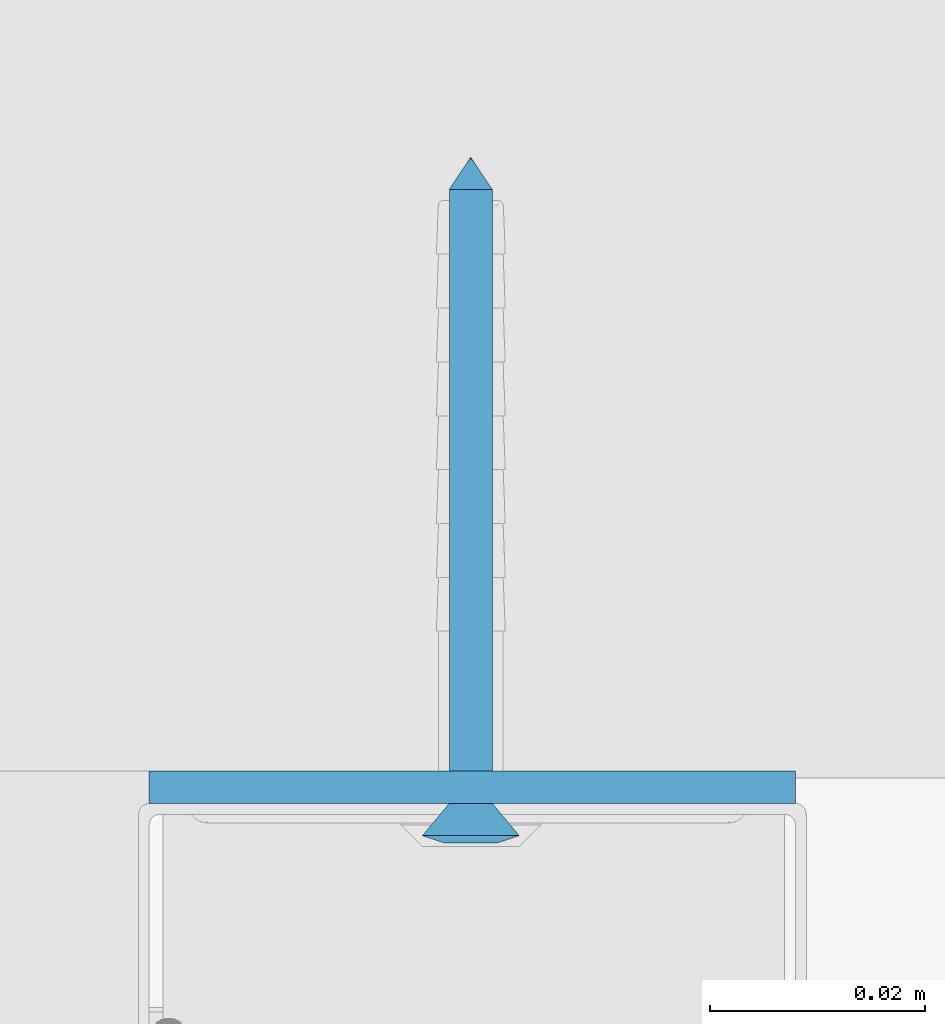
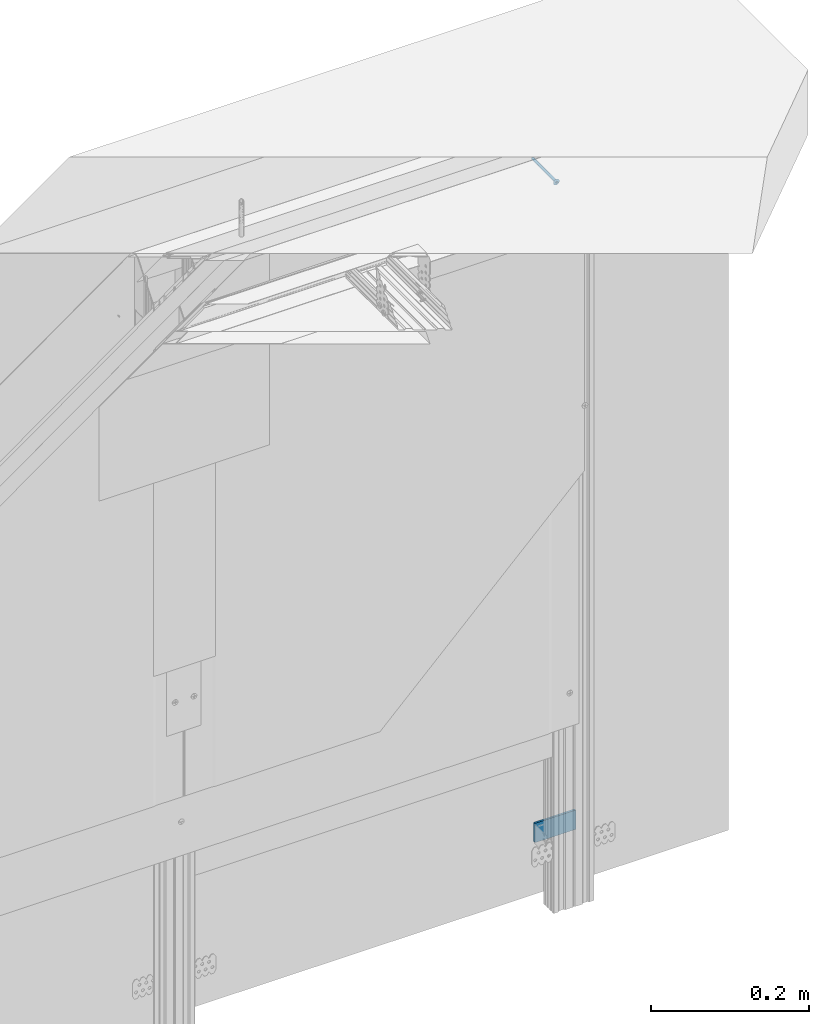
# One storey, part 60 of 62: 2 walls.
"""IFC2X3 building model written with IfcOpenShell, lengths in millimetres."""

from ifc_helpers import new_model, entity, si_unit, converted_unit, direction, frame, origin, origin_with_axes, place, context, project, spatial, faceted_brep, element, save


model = new_model("IFC2X3")

# Units and contexts
model_context = context("Model", 3, precision=1e-05, world=origin(), true_north=direction((0.0, 1.0, 0.0)))
ifc_project = project(units=[si_unit("LENGTHUNIT", "METRE", prefix="MILLI"), si_unit("AREAUNIT", "SQUARE_METRE"), si_unit("VOLUMEUNIT", "CUBIC_METRE"), converted_unit("PLANEANGLEUNIT", "DEGREE", entity("IfcPlaneAngleMeasure", 0.01745), si_unit("PLANEANGLEUNIT", "RADIAN"), dimensions=[0, 0, 0, 0, 0, 0, 0]), si_unit("SOLIDANGLEUNIT", "STERADIAN"), si_unit("MASSUNIT", "GRAM"), si_unit("TIMEUNIT", "SECOND"), si_unit("THERMODYNAMICTEMPERATUREUNIT", "DEGREE_CELSIUS"), si_unit("LUMINOUSINTENSITYUNIT", "LUMEN")], contexts=[model_context])

# Site, building, storey
site_placement = place(None, origin_with_axes())
site = spatial("IfcSite", under=ifc_project, at=site_placement, Name="Default Site", CompositionType="ELEMENT")
building_placement = place(site_placement, origin_with_axes())
building = spatial("IfcBuilding", under=site, at=building_placement, Name="Default Building", CompositionType="ELEMENT")
storey_placement = place(building_placement, origin_with_axes())
storey = spatial("IfcBuildingStorey", under=building, at=storey_placement, Name="Default Building Storey", CompositionType="ELEMENT", Elevation=0.0)

# Walls
wall_1_placement = place(storey_placement, frame((3458.037086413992, 2019.778611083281, 272.8482394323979), z_axis=(0.0, 0.0, -1.0), x_axis=(1.0, 0.0, 0.0)))
element("IfcWall", 1, at=wall_1_placement, inside=storey, Name="Taśma uszczelniająca piankowa RIGIPS szer.30mm", context=model_context, shape_type="Brep", body=[
    faceted_brep([(59.99999999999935, 0.0, 4.511946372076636e-12), (0.0, 0.0, 0.0), (1.082867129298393e-12, 2.237925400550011e-11, -30.00000000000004), (60.00000000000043, 2.237925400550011e-11, -29.99999999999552), (0.0, -3.00000000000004, 0.0), (1.082867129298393e-12, -2.999999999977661, -30.00000000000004), (60.00000000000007, -3.00000000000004, 0.0), (60.00000000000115, -2.999999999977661, -30.00000000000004)], [[[0, 1, 2, 3]], [[1, 4, 5, 2]], [[4, 6, 7, 5]], [[6, 0, 3, 7]], [[7, 3, 2, 5]], [[0, 6, 4, 1]]]),
])
wall_2_placement = place(storey_placement, frame((6941.176283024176, 2016.328611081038, -145.8634027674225), z_axis=(-6.858158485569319e-13, -1.0, -7.642380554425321e-14), x_axis=(-1.647602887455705e-11, 7.642380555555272e-14, -1.0)))
element("IfcWall", 2, at=wall_2_placement, inside=storey, Name="Kołek rozporowy min. fi 6", context=model_context, shape_type="Brep", body=[
    faceted_brep([(-1438.31414949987, -3453.283223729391, -0.4642567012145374), (-1435.814149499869, -3453.283223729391, -3.464256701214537), (-1435.78952618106, -3452.97035479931, -3.464256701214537), (-1438.258747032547, -3452.57926863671, -0.4642567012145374), (-1435.71626253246, -3452.665189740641, -3.464256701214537), (-1438.093903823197, -3451.892647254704, -0.4642567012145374), (-1435.596162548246, -3452.375242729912, -3.464256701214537), (-1437.823678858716, -3451.240266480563, -0.4642567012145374), (-1435.432183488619, -3452.107653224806, -3.464256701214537), (-1437.454725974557, -3450.638190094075, -0.4642567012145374), (-1435.228363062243, -3451.869010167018, -3.464256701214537), (-1436.996130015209, -3450.101243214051, -0.4642567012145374), (-1434.989720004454, -3451.665189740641, -3.464256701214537), (-1436.459183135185, -3449.642647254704, -0.4642567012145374), (-1434.722130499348, -3451.501210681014, -3.464256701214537), (-1435.857106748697, -3449.273694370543, -0.4642567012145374), (-1434.432183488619, -3451.381110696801, -3.464256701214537), (-1435.204725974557, -3449.003469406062, -0.4642567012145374), (-1434.12701842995, -3451.307847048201, -3.464256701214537), (-1434.51810459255, -3448.838626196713, -0.4642567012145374), (-1433.814149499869, -3451.283223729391, -3.464256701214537), (-1433.814149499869, -3448.783223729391, -0.4642567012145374), (-1433.501280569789, -3451.307847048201, -3.464256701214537), (-1433.110194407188, -3448.838626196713, -0.4642567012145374), (-1433.19611551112, -3451.381110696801, -3.464256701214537), (-1432.423573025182, -3449.003469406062, -0.4642567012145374), (-1432.906168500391, -3451.501210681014, -3.464256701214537), (-1431.771192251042, -3449.273694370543, -0.4642567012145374), (-1432.638578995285, -3451.665189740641, -3.464256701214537), (-1431.169115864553, -3449.642647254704, -0.4642567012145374), (-1432.399935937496, -3451.869010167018, -3.464256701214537), (-1430.63216898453, -3450.101243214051, -0.4642567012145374), (-1432.196115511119, -3452.107653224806, -3.464256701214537), (-1430.173573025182, -3450.638190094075, -0.4642567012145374), (-1432.032136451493, -3452.375242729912, -3.464256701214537), (-1429.804620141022, -3451.240266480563, -0.4642567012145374), (-1431.912036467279, -3452.665189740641, -3.464256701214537), (-1429.534395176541, -3451.892647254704, -0.4642567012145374), (-1431.838772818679, -3453.596092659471, -3.464256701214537), (-1429.369551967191, -3453.987178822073, -0.4642567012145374), (-1429.314149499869, -3453.283223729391, -0.4642567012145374), (-1431.81414949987, -3453.283223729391, -3.464256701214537), (-1429.369551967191, -3452.57926863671, -0.4642567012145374), (-1431.838772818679, -3452.97035479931, -3.464256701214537), (-1431.912036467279, -3453.901257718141, -3.464256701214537), (-1429.534395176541, -3454.673800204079, -0.4642567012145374), (-1432.032136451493, -3454.19120472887, -3.464256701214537), (-1429.804620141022, -3455.326180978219, -0.4642567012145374), (-1432.196115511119, -3454.458794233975, -3.464256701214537), (-1430.173573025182, -3455.928257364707, -0.4642567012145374), (-1432.399935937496, -3454.697437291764, -3.464256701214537), (-1430.63216898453, -3456.465204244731, -0.4642567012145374), (-1432.638578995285, -3454.901257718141, -3.464256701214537), (-1431.169115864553, -3456.923800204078, -0.4642567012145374), (-1432.906168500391, -3455.065236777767, -3.464256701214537), (-1431.771192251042, -3457.292753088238, -0.4642567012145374), (-1433.19611551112, -3455.185336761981, -3.464256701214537), (-1432.423573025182, -3457.562978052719, -0.4642567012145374), (-1433.501280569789, -3455.258600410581, -3.464256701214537), (-1433.110194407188, -3457.727821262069, -0.4642567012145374), (-1433.814149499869, -3455.283223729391, -3.464256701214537), (-1433.814149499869, -3457.783223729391, -0.4642567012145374), (-1434.34306778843, -3457.752031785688, -0.4642567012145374), (-1434.12701842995, -3455.258600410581, -3.464256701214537), (-1434.432183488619, -3455.185336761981, -3.464256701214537), (-1434.864653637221, -3457.658888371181, -0.4642567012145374), (-1435.371676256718, -3457.505084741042, -0.4642567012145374), (-1434.722130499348, -3455.065236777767, -3.464256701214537), (-1435.857106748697, -3457.292753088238, -0.4642567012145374), (-1434.989720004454, -3454.901257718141, -3.464256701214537), (-1435.228363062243, -3454.697437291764, -3.464256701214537), (-1436.314215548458, -3457.024836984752, -0.4642567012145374), (-1436.736665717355, -3456.705050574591, -0.4642567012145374), (-1437.11860079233, -3456.337827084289, -0.4642567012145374), (-1437.454725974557, -3455.928257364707, -0.4642567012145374), (-1435.432183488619, -3454.458794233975, -3.464256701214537), (-1435.596162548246, -3454.19120472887, -3.464256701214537), (-1437.823678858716, -3455.326180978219, -0.4642567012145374), (-1435.71626253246, -3453.901257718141, -3.464256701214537), (-1438.093903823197, -3454.673800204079, -0.4642567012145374), (-1435.78952618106, -3453.596092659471, -3.464256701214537), (-1438.258747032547, -3453.987178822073, -0.4642567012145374), (-1434.205235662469, -3455.752444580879, 0.2007375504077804), (-1433.814149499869, -3455.78322372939, 0.2007375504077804), (-1434.586691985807, -3455.660865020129, 0.2007375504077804), (-1434.949125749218, -3455.510740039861, 0.2007375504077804), (-1435.283612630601, -3455.305766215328, 0.2007375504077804), (-1435.581916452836, -3455.050990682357, 0.2007375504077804), (-1435.836691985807, -3454.752686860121, 0.2007375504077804), (-1436.04166581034, -3454.41819997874, 0.2007375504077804), (-1436.191790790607, -3454.055766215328, 0.2007375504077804), (-1436.283370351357, -3453.674309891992, 0.2007375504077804), (-1436.314149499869, -3453.283223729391, 0.2007375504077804), (-1436.283370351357, -3452.892137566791, 0.2007375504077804), (-1436.191790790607, -3452.510681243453, 0.2007375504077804), (-1436.04166581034, -3452.148247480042, 0.2007375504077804), (-1435.836691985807, -3451.81376059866, 0.200737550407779), (-1435.581916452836, -3451.515456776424, 0.2007375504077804), (-1435.283612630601, -3451.260681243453, 0.2007375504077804), (-1434.949125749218, -3451.05570741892, 0.2007375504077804), (-1434.586691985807, -3450.905582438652, 0.2007375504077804), (-1433.423063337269, -3450.814002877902, 0.2007375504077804), (-1433.814149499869, -3450.783223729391, 0.2007375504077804), (-1434.205235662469, -3450.814002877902, 0.2007375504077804), (-1433.041607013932, -3450.905582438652, 0.2007375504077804), (-1432.67917325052, -3451.05570741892, 0.2007375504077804), (-1432.344686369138, -3451.260681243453, 0.2007375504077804), (-1432.046382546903, -3451.515456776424, 0.2007375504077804), (-1431.791607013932, -3451.81376059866, 0.2007375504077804), (-1431.586633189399, -3452.148247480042, 0.2007375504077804), (-1431.436508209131, -3452.510681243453, 0.2007375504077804), (-1431.344928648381, -3452.892137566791, 0.2007375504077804), (-1431.314149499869, -3453.283223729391, 0.2007375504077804), (-1431.344928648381, -3453.674309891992, 0.2007375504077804), (-1431.436508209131, -3454.055766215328, 0.2007375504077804), (-1431.586633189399, -3454.41819997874, 0.2007375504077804), (-1431.791607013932, -3454.752686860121, 0.2007375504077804), (-1432.046382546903, -3455.050990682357, 0.2007375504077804), (-1432.344686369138, -3455.305766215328, 0.2007375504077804), (-1432.67917325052, -3455.510740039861, 0.2007375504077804), (-1433.041607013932, -3455.660865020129, 0.2007375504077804), (-1433.423063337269, -3455.752444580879, 0.2007375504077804), (-1433.814149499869, -3453.283223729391, -63.46425670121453), (-1435.789526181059, -3452.97035479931, -60.46425670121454), (-1435.814149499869, -3453.283223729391, -60.46425670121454), (-1435.716262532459, -3452.665189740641, -60.46425670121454), (-1435.596162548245, -3452.375242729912, -60.46425670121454), (-1435.432183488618, -3452.107653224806, -60.46425670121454), (-1435.228363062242, -3451.869010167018, -60.46425670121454), (-1434.989720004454, -3451.665189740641, -60.46425670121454), (-1434.722130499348, -3451.501210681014, -60.46425670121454), (-1434.432183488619, -3451.381110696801, -60.46425670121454), (-1434.127018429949, -3451.307847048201, -60.46425670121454), (-1433.814149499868, -3451.283223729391, -60.46425670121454), (-1433.501280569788, -3451.307847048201, -60.46425670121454), (-1433.196115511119, -3451.381110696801, -60.46425670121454), (-1432.90616850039, -3451.501210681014, -60.46425670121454), (-1432.638578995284, -3451.665189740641, -60.46425670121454), (-1432.399935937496, -3451.869010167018, -60.46425670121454), (-1432.196115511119, -3452.107653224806, -60.46425670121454), (-1432.032136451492, -3452.375242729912, -60.46425670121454), (-1431.912036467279, -3452.665189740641, -60.46425670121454), (-1431.838772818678, -3452.97035479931, -60.46425670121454), (-1431.814149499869, -3453.283223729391, -60.46425670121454), (-1431.838772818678, -3453.596092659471, -60.46425670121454), (-1431.912036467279, -3453.901257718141, -60.46425670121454), (-1432.032136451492, -3454.19120472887, -60.46425670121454), (-1432.196115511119, -3454.458794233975, -60.46425670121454), (-1432.399935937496, -3454.697437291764, -60.46425670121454), (-1432.638578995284, -3454.901257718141, -60.46425670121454), (-1432.90616850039, -3455.065236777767, -60.46425670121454), (-1433.196115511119, -3455.185336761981, -60.46425670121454), (-1433.501280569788, -3455.258600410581, -60.46425670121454), (-1433.814149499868, -3455.283223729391, -60.46425670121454), (-1434.127018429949, -3455.258600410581, -60.46425670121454), (-1434.432183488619, -3455.185336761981, -60.46425670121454), (-1434.722130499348, -3455.065236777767, -60.46425670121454), (-1434.989720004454, -3454.901257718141, -60.46425670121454), (-1435.228363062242, -3454.697437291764, -60.46425670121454), (-1435.432183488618, -3454.458794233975, -60.46425670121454), (-1435.596162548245, -3454.19120472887, -60.46425670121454), (-1435.716262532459, -3453.901257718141, -60.46425670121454), (-1435.789526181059, -3453.596092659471, -60.46425670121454), (-1435.814149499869, -3453.783223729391, 0.04999999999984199), (-1436.04166581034, -3454.41819997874, 0.04999999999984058), (-1436.191790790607, -3454.055766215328, 0.04999999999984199), (-1435.814149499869, -3452.783223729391, 0.04999999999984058), (-1434.314149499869, -3453.783223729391, 0.04999999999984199), (-1434.314149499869, -3455.28322372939, 0.04999999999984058), (-1433.314149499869, -3455.28322372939, 0.04999999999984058), (-1433.314149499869, -3453.783223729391, 0.04999999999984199), (-1431.814149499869, -3453.783223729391, 0.04999999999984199), (-1431.814149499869, -3452.783223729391, 0.04999999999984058), (-1433.314149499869, -3452.783223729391, 0.04999999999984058), (-1433.314149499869, -3451.283223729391, 0.04999999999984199), (-1434.314149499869, -3451.283223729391, 0.04999999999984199), (-1434.314149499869, -3452.783223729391, 0.04999999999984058), (-1436.283370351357, -3453.674309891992, 0.04999999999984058), (-1436.314149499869, -3453.283223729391, 0.04999999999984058), (-1436.283370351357, -3452.892137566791, 0.04999999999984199), (-1436.191790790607, -3452.510681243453, 0.04999999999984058), (-1436.04166581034, -3452.148247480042, 0.04999999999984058), (-1435.836691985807, -3451.81376059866, 0.04999999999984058), (-1435.581916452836, -3451.515456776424, 0.04999999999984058), (-1435.283612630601, -3451.260681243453, 0.04999999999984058), (-1434.949125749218, -3451.05570741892, 0.04999999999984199), (-1434.586691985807, -3450.905582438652, 0.04999999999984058), (-1434.205235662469, -3450.814002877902, 0.04999999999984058), (-1433.814149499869, -3450.783223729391, 0.04999999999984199), (-1433.423063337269, -3450.814002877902, 0.04999999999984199), (-1433.041607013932, -3450.905582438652, 0.04999999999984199), (-1432.67917325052, -3451.05570741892, 0.04999999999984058), (-1432.344686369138, -3451.260681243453, 0.04999999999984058), (-1432.046382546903, -3451.515456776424, 0.04999999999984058), (-1431.791607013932, -3451.81376059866, 0.04999999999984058), (-1431.586633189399, -3452.148247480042, 0.04999999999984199), (-1431.436508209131, -3452.510681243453, 0.04999999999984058), (-1431.344928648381, -3452.892137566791, 0.04999999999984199), (-1431.314149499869, -3453.283223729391, 0.04999999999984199), (-1431.344928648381, -3453.674309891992, 0.04999999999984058), (-1431.436508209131, -3454.055766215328, 0.04999999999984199), (-1431.586633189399, -3454.41819997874, 0.04999999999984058), (-1431.791607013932, -3454.752686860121, 0.04999999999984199), (-1432.046382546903, -3455.050990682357, 0.04999999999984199), (-1432.344686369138, -3455.305766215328, 0.04999999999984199), (-1432.67917325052, -3455.510740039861, 0.04999999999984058), (-1433.041607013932, -3455.660865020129, 0.04999999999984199), (-1433.423063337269, -3455.752444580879, 0.04999999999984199), (-1433.814149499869, -3455.78322372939, 0.04999999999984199), (-1434.205235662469, -3455.752444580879, 0.04999999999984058), (-1434.586691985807, -3455.660865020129, 0.04999999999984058), (-1434.949125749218, -3455.510740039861, 0.04999999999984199), (-1435.283612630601, -3455.305766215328, 0.04999999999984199), (-1435.581916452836, -3455.050990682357, 0.04999999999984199), (-1435.836691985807, -3454.752686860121, 0.04999999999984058), (-1434.314149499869, -3452.783223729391, -1.79926244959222), (-1434.314149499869, -3451.283223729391, -1.799262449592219), (-1433.314149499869, -3451.283223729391, -1.799262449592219), (-1433.314149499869, -3452.783223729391, -1.79926244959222), (-1431.81414949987, -3452.783223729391, -1.79926244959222), (-1431.81414949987, -3453.783223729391, -1.799262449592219), (-1433.314149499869, -3453.783223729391, -1.799262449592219), (-1433.314149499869, -3455.28322372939, -1.79926244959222), (-1434.314149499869, -3455.28322372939, -1.79926244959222), (-1434.314149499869, -3453.783223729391, -1.799262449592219), (-1435.814149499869, -3453.783223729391, -1.799262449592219), (-1435.814149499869, -3452.783223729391, -1.79926244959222)], [[[0, 1, 2, 3]], [[4, 5, 3, 2]], [[6, 7, 5, 4]], [[7, 6, 8, 9]], [[10, 11, 9, 8]], [[11, 10, 12, 13]], [[14, 15, 13, 12]], [[16, 17, 15, 14]], [[17, 16, 18, 19]], [[20, 21, 19, 18]], [[21, 20, 22, 23]], [[24, 25, 23, 22]], [[26, 27, 25, 24]], [[27, 26, 28, 29]], [[30, 31, 29, 28]], [[31, 30, 32, 33]], [[34, 35, 33, 32]], [[36, 37, 35, 34]], [[38, 39, 40, 41]], [[41, 40, 42, 43]], [[37, 36, 43, 42]], [[44, 45, 39, 38]], [[46, 47, 45, 44]], [[47, 46, 48, 49]], [[50, 51, 49, 48]], [[51, 50, 52, 53]], [[54, 55, 53, 52]], [[56, 57, 55, 54]], [[57, 56, 58, 59]], [[60, 61, 59, 58]], [[62, 61, 63]], [[61, 60, 63]], [[63, 64, 62]], [[64, 65, 62]], [[66, 65, 64]], [[64, 67, 66]], [[67, 68, 66]], [[69, 70, 71]], [[70, 72, 71]], [[71, 68, 69]], [[68, 67, 69]], [[70, 73, 72]], [[74, 73, 75]], [[73, 70, 75]], [[76, 77, 74, 75]], [[78, 79, 77, 76]], [[79, 78, 80, 81]], [[1, 0, 81, 80]], [[82, 83, 62]], [[83, 61, 62]], [[62, 65, 82]], [[65, 84, 82]], [[66, 68, 84]], [[68, 85, 84]], [[84, 65, 66]], [[86, 85, 71]], [[85, 68, 71]], [[72, 73, 87]], [[87, 86, 72]], [[86, 71, 72]], [[88, 87, 74]], [[87, 73, 74]], [[77, 89, 88, 74]], [[79, 90, 89, 77]], [[90, 79, 81, 91]], [[0, 92, 91, 81]], [[92, 0, 3, 93]], [[5, 94, 93, 3]], [[7, 95, 94, 5]], [[95, 7, 9, 96]], [[11, 97, 96, 9]], [[97, 11, 13, 98]], [[15, 99, 98, 13]], [[17, 100, 99, 15]], [[23, 101, 102, 21]], [[21, 102, 103, 19]], [[100, 17, 19, 103]], [[25, 104, 101, 23]], [[27, 105, 104, 25]], [[105, 27, 29, 106]], [[31, 107, 106, 29]], [[107, 31, 33, 108]], [[35, 109, 108, 33]], [[37, 110, 109, 35]], [[110, 37, 42, 111]], [[40, 112, 111, 42]], [[112, 40, 39, 113]], [[45, 114, 113, 39]], [[47, 115, 114, 45]], [[115, 47, 49, 116]], [[51, 117, 116, 49]], [[117, 51, 53, 118]], [[55, 119, 118, 53]], [[57, 120, 119, 55]], [[120, 57, 59, 121]], [[61, 83, 121, 59]], [[122, 123, 124]], [[122, 125, 123]], [[122, 126, 125]], [[127, 126, 122]], [[122, 128, 127]], [[129, 128, 122]], [[122, 130, 129]], [[122, 131, 130]], [[132, 131, 122]], [[122, 133, 132]], [[134, 133, 122]], [[122, 135, 134]], [[122, 136, 135]], [[137, 136, 122]], [[122, 138, 137]], [[139, 138, 122]], [[122, 140, 139]], [[122, 141, 140]], [[142, 141, 122]], [[122, 143, 142]], [[144, 143, 122]], [[122, 145, 144]], [[122, 146, 145]], [[147, 146, 122]], [[122, 148, 147]], [[149, 148, 122]], [[122, 150, 149]], [[122, 151, 150]], [[152, 151, 122]], [[122, 153, 152]], [[154, 153, 122]], [[122, 155, 154]], [[122, 156, 155]], [[157, 156, 122]], [[122, 158, 157]], [[159, 158, 122]], [[122, 160, 159]], [[122, 161, 160]], [[162, 161, 122]], [[124, 162, 122]], [[1, 124, 123, 2]], [[125, 4, 2, 123]], [[126, 6, 4, 125]], [[6, 126, 127, 8]], [[128, 10, 8, 127]], [[10, 128, 129, 12]], [[130, 14, 12, 129]], [[131, 16, 14, 130]], [[16, 131, 132, 18]], [[133, 20, 18, 132]], [[20, 133, 134, 22]], [[135, 24, 22, 134]], [[136, 26, 24, 135]], [[26, 136, 137, 28]], [[138, 30, 28, 137]], [[30, 138, 139, 32]], [[140, 34, 32, 139]], [[141, 36, 34, 140]], [[144, 38, 41, 143]], [[143, 41, 43, 142]], [[36, 141, 142, 43]], [[145, 44, 38, 144]], [[146, 46, 44, 145]], [[46, 146, 147, 48]], [[148, 50, 48, 147]], [[50, 148, 149, 52]], [[150, 54, 52, 149]], [[151, 56, 54, 150]], [[56, 151, 152, 58]], [[153, 60, 58, 152]], [[60, 153, 154, 63]], [[155, 64, 63, 154]], [[156, 67, 64, 155]], [[67, 156, 157, 69]], [[158, 70, 69, 157]], [[70, 158, 159, 75]], [[160, 76, 75, 159]], [[161, 78, 76, 160]], [[78, 161, 162, 80]], [[124, 1, 80, 162]], [[163, 164, 165, 166]], [[163, 167, 168, 169, 170, 171, 172, 173, 174, 175, 176, 166, 165, 177, 178, 179, 180, 181, 182, 183, 184, 185, 186, 187, 188, 189, 190, 191, 192, 193, 194, 195, 196, 197, 198, 199, 200, 201, 202, 203, 204, 205, 206, 207, 208, 209, 210, 211, 212, 213, 214, 164]], [[199, 198, 112, 113]], [[113, 114, 200, 199]], [[114, 115, 201, 200]], [[202, 201, 115, 116]], [[116, 117, 203, 202]], [[204, 203, 117, 118]], [[118, 119, 205, 204]], [[119, 120, 206, 205]], [[207, 206, 120, 121]], [[121, 83, 208, 207]], [[209, 208, 83, 82]], [[82, 84, 210, 209]], [[84, 85, 211, 210]], [[212, 211, 85, 86]], [[86, 87, 213, 212]], [[214, 213, 87, 88]], [[88, 89, 164, 214]], [[89, 90, 165, 164]], [[92, 93, 179, 178]], [[91, 92, 178, 177]], [[177, 165, 90, 91]], [[93, 94, 180, 179]], [[94, 95, 181, 180]], [[182, 181, 95, 96]], [[96, 97, 183, 182]], [[184, 183, 97, 98]], [[98, 99, 185, 184]], [[99, 100, 186, 185]], [[187, 186, 100, 103]], [[103, 102, 188, 187]], [[189, 188, 102, 101]], [[101, 104, 190, 189]], [[104, 105, 191, 190]], [[192, 191, 105, 106]], [[106, 107, 193, 192]], [[194, 193, 107, 108]], [[108, 109, 195, 194]], [[109, 110, 196, 195]], [[197, 196, 110, 111]], [[111, 112, 198, 197]], [[215, 216, 217, 218, 219, 220, 221, 222, 223, 224, 225, 226]], [[216, 175, 174, 217]], [[215, 176, 175, 216]], [[226, 166, 176, 215]], [[225, 163, 166, 226]], [[224, 167, 163, 225]], [[223, 168, 167, 224]], [[222, 169, 168, 223]], [[221, 170, 169, 222]], [[220, 171, 170, 221]], [[219, 172, 171, 220]], [[218, 173, 172, 219]], [[217, 174, 173, 218]]]),
])

save(model, "model.ifc")
